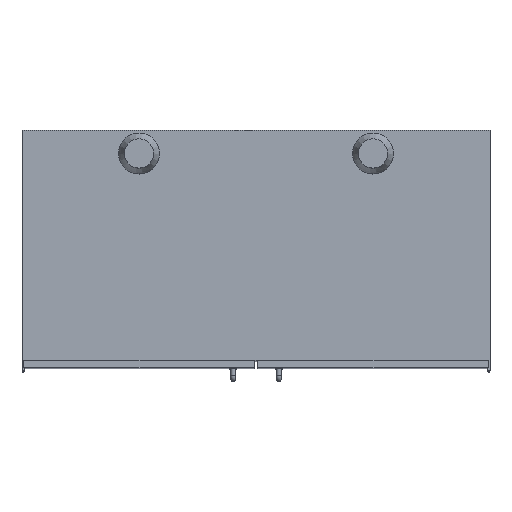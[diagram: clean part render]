
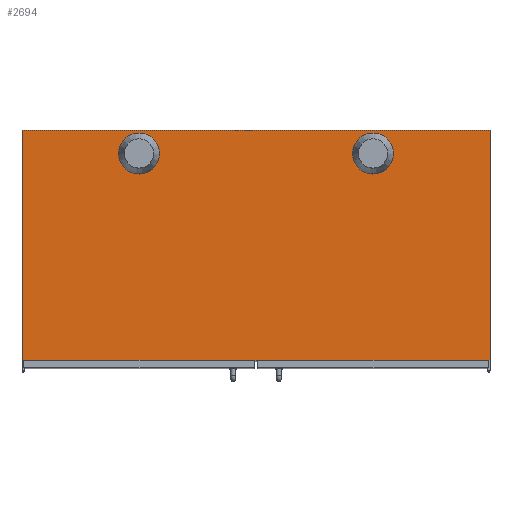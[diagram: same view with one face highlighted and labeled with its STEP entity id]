
A CAD part, top view. The second image highlights one B-rep face of the part: STEP entity #2694.
In plain terms, the highlighted planar face has unit normal (0, 0, 1).
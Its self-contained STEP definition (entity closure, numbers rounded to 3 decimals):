
#41=CIRCLE('',#2807,52.5);
#48=CIRCLE('',#2835,52.5);
#335=ORIENTED_EDGE('',*,*,#769,.T.);
#336=ORIENTED_EDGE('',*,*,#729,.T.);
#337=ORIENTED_EDGE('',*,*,#658,.F.);
#338=ORIENTED_EDGE('',*,*,#770,.F.);
#339=ORIENTED_EDGE('',*,*,#771,.T.);
#340=ORIENTED_EDGE('',*,*,#772,.T.);
#658=EDGE_CURVE('',#912,#913,#1094,.T.);
#729=EDGE_CURVE('',#969,#969,#41,.T.);
#769=EDGE_CURVE('',#990,#990,#48,.T.);
#770=EDGE_CURVE('',#991,#912,#1187,.T.);
#771=EDGE_CURVE('',#991,#992,#1188,.T.);
#772=EDGE_CURVE('',#992,#913,#1189,.T.);
#912=VERTEX_POINT('',#3554);
#913=VERTEX_POINT('',#3556);
#969=VERTEX_POINT('',#3701);
#990=VERTEX_POINT('',#3783);
#991=VERTEX_POINT('',#3785);
#992=VERTEX_POINT('',#3787);
#1094=LINE('',#3555,#1294);
#1187=LINE('',#3784,#1387);
#1188=LINE('',#3786,#1388);
#1189=LINE('',#3788,#1389);
#1294=VECTOR('',#2994,1000.);
#1387=VECTOR('',#3203,1000.);
#1388=VECTOR('',#3204,1000.);
#1389=VECTOR('',#3205,1000.);
#1525=EDGE_LOOP('',(#335));
#1526=EDGE_LOOP('',(#336));
#1527=EDGE_LOOP('',(#337,#338,#339,#340));
#1681=FACE_BOUND('',#1525,.T.);
#1682=FACE_BOUND('',#1526,.T.);
#1683=FACE_BOUND('',#1527,.T.);
#1808=PLANE('',#2834);
#2694=ADVANCED_FACE('',(#1681,#1682,#1683),#1808,.F.);
#2807=AXIS2_PLACEMENT_3D('',#3700,#3112,#3113);
#2834=AXIS2_PLACEMENT_3D('',#3781,#3199,#3200);
#2835=AXIS2_PLACEMENT_3D('',#3782,#3201,#3202);
#2994=DIRECTION('',(-1.,0.,0.));
#3112=DIRECTION('',(0.,0.,-1.));
#3113=DIRECTION('',(-1.,0.,0.));
#3199=DIRECTION('',(0.,0.,-1.));
#3200=DIRECTION('',(-1.,0.,0.));
#3201=DIRECTION('',(0.,0.,-1.));
#3202=DIRECTION('',(-1.,0.,0.));
#3203=DIRECTION('',(0.,-1.,0.));
#3204=DIRECTION('',(-1.,0.,0.));
#3205=DIRECTION('',(0.,-1.,0.));
#3554=CARTESIAN_POINT('',(1200.,19.,2045.));
#3555=CARTESIAN_POINT('',(1197.,19.,2045.));
#3556=CARTESIAN_POINT('',(0.,19.,2045.));
#3700=CARTESIAN_POINT('',(900.,549.,2045.));
#3701=CARTESIAN_POINT('',(847.5,549.,2045.));
#3781=CARTESIAN_POINT('',(1197.,631.,2045.));
#3782=CARTESIAN_POINT('',(300.,549.,2045.));
#3783=CARTESIAN_POINT('',(247.5,549.,2045.));
#3784=CARTESIAN_POINT('',(1200.,631.,2045.));
#3785=CARTESIAN_POINT('',(1200.,609.,2045.));
#3786=CARTESIAN_POINT('',(1197.,609.,2045.));
#3787=CARTESIAN_POINT('',(0.,609.,2045.));
#3788=CARTESIAN_POINT('',(0.,631.,2045.));
